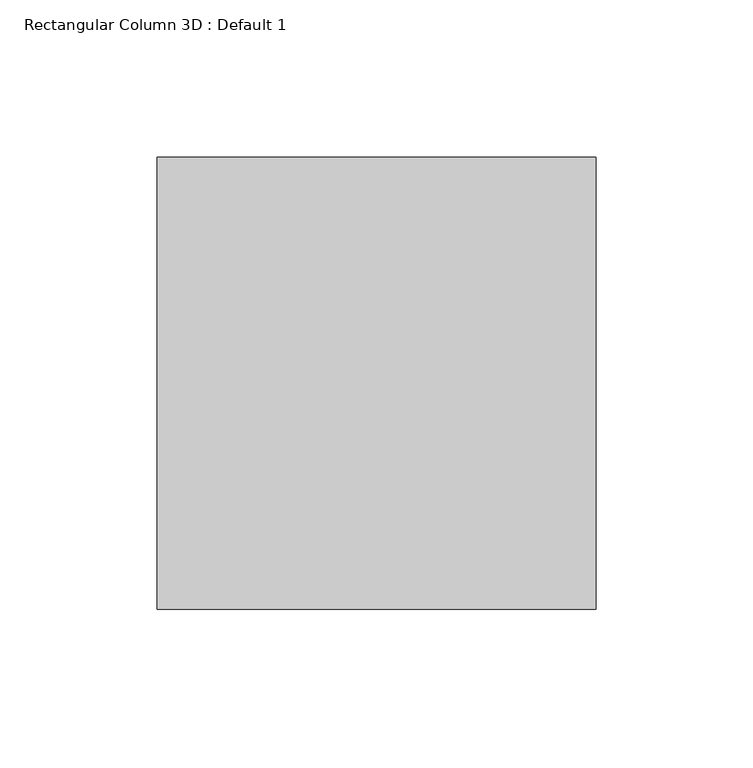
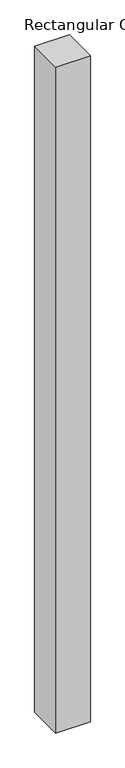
"""IFC4 building model written with IfcOpenShell, lengths in millimetres: column geometry, Rectangular Column 3D : Default 1."""

from ifc_helpers import new_model, si_unit, origin, origin_with_axes, place, context, project, spatial, polyline, outline, extrude, source, transform, mapped, element, save


def rectangular_column_3d_default_1_3e15c2c2(model_context):
    return source(origin(), model_context, "Body", "SweptSolid", [
        extrude(outline(polyline([(139.7, 143.8499893), (139.7, 0.0), (0.0, 0.0), (0.0, 143.8499893), (139.7, 143.8499893)])), origin_with_axes(), (0.0, 0.0, 1.0), 2819.4),
    ])


if __name__ == "__main__":
    model = new_model("IFC4")
    model_context = context("Model", 3, world=origin())
    ifc_project = project(units=[si_unit("LENGTHUNIT", "METRE", prefix="MILLI")], contexts=[model_context])
    site = spatial("IfcSite", under=ifc_project)
    building = spatial("IfcBuilding", under=site)
    placement = place(None, origin())
    rectangular_column_3d_default_1_shape = rectangular_column_3d_default_1_3e15c2c2(model_context)
    element("IfcColumn", 1, ObjectType="Rectangular Column 3D : Default 1", at=placement, inside=building, context=model_context, shape_type="MappedRepresentation", body=[
        mapped(rectangular_column_3d_default_1_shape, transform((0.0, 0.0, 0.0), x_axis=(1.0, 0.0, 0.0), y_axis=(0.0, 1.0, 0.0), z_axis=(0.0, 0.0, 1.0))),
    ])
    save(model, "model.ifc")
